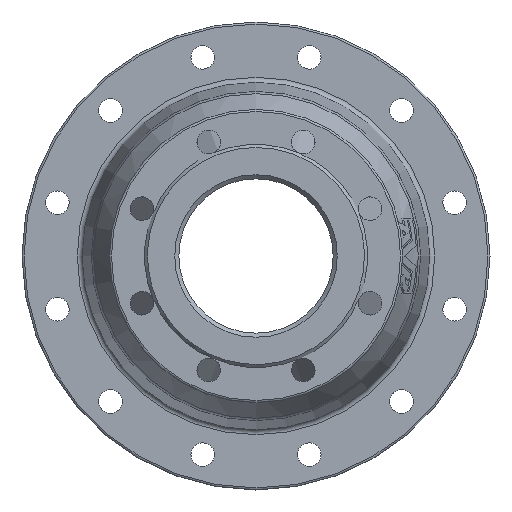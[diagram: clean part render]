
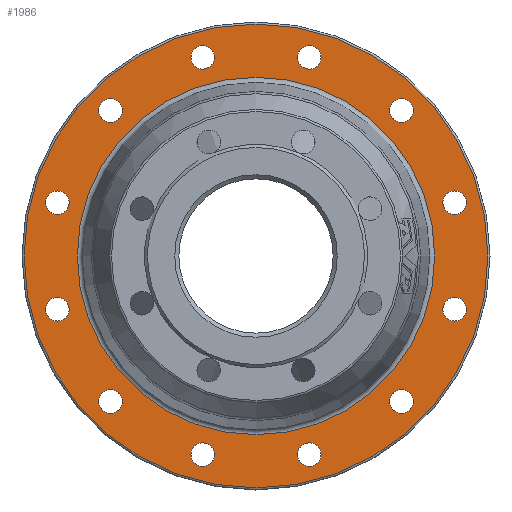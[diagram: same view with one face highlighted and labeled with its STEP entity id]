
A CAD part, left-side view. The second image highlights one B-rep face of the part: STEP entity #1986.
In plain terms, the highlighted planar face has unit normal (-1, 0, 0).
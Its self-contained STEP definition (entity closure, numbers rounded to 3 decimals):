
#34 = CIRCLE ( 'NONE', #509, 11.5 ) ;
#52 = FACE_BOUND ( 'NONE', #2581, .T. ) ;
#67 = FACE_BOUND ( 'NONE', #3065, .T. ) ;
#84 = VERTEX_POINT ( 'NONE', #2435 ) ;
#104 = CARTESIAN_POINT ( 'NONE',  ( 125.5, -51.764, -193.185 ) ) ;
#121 = DIRECTION ( 'NONE',  ( 1., 0., 0. ) ) ;
#199 = EDGE_LOOP ( 'NONE', ( #512 ) ) ;
#266 = CIRCLE ( 'NONE', #954, 11.5 ) ;
#279 = DIRECTION ( 'NONE',  ( 1., 0., 0. ) ) ;
#289 = DIRECTION ( 'NONE',  ( 1., 0., 0. ) ) ;
#299 = FACE_BOUND ( 'NONE', #1471, .T. ) ;
#313 = DIRECTION ( 'NONE',  ( 1., 0., 0. ) ) ;
#331 = CARTESIAN_POINT ( 'NONE',  ( 125.5, 0., 0. ) ) ;
#345 = DIRECTION ( 'NONE',  ( 0., 0., 1. ) ) ;
#348 = VERTEX_POINT ( 'NONE', #2919 ) ;
#387 = EDGE_LOOP ( 'NONE', ( #2099 ) ) ;
#399 = AXIS2_PLACEMENT_3D ( 'NONE', #104, #1523, #2232 ) ;
#411 = AXIS2_PLACEMENT_3D ( 'NONE', #2565, #1637, #2580 ) ;
#457 = VERTEX_POINT ( 'NONE', #1407 ) ;
#464 = EDGE_LOOP ( 'NONE', ( #2642 ) ) ;
#476 = EDGE_CURVE ( 'NONE', #719, #719, #3014, .T. ) ;
#509 = AXIS2_PLACEMENT_3D ( 'NONE', #2888, #121, #1715 ) ;
#512 = ORIENTED_EDGE ( 'NONE', *, *, #1177, .T. ) ;
#516 = DIRECTION ( 'NONE',  ( -1., 0., 0. ) ) ;
#522 = DIRECTION ( 'NONE',  ( 1., 0., 0. ) ) ;
#529 = VERTEX_POINT ( 'NONE', #1008 ) ;
#537 = AXIS2_PLACEMENT_3D ( 'NONE', #985, #522, #2384 ) ;
#540 = CIRCLE ( 'NONE', #938, 225.5 ) ;
#563 = DIRECTION ( 'NONE',  ( 0., 0., 1. ) ) ;
#574 = VERTEX_POINT ( 'NONE', #1985 ) ;
#591 = AXIS2_PLACEMENT_3D ( 'NONE', #1060, #289, #563 ) ;
#634 = DIRECTION ( 'NONE',  ( 0., 0., 1. ) ) ;
#690 = ORIENTED_EDGE ( 'NONE', *, *, #1896, .T. ) ;
#700 = EDGE_CURVE ( 'NONE', #457, #457, #833, .T. ) ;
#712 = EDGE_CURVE ( 'NONE', #1870, #1870, #2075, .T. ) ;
#719 = VERTEX_POINT ( 'NONE', #2856 ) ;
#730 = CARTESIAN_POINT ( 'NONE',  ( 125.5, -193.185, 63.264 ) ) ;
#737 = AXIS2_PLACEMENT_3D ( 'NONE', #2679, #279, #1209 ) ;
#755 = ORIENTED_EDGE ( 'NONE', *, *, #2104, .T. ) ;
#833 = CIRCLE ( 'NONE', #537, 11.5 ) ;
#835 = AXIS2_PLACEMENT_3D ( 'NONE', #1441, #1467, #1688 ) ;
#847 = CARTESIAN_POINT ( 'NONE',  ( 125.5, 141.421, 141.421 ) ) ;
#852 = CARTESIAN_POINT ( 'NONE',  ( 125.5, 51.764, 193.185 ) ) ;
#862 = EDGE_LOOP ( 'NONE', ( #690 ) ) ;
#871 = CARTESIAN_POINT ( 'NONE',  ( 125.5, 0., 0. ) ) ;
#928 = CARTESIAN_POINT ( 'NONE',  ( 125.5, -193.185, -51.764 ) ) ;
#938 = AXIS2_PLACEMENT_3D ( 'NONE', #871, #2798, #3013 ) ;
#954 = AXIS2_PLACEMENT_3D ( 'NONE', #847, #2728, #634 ) ;
#977 = VERTEX_POINT ( 'NONE', #1670 ) ;
#985 = CARTESIAN_POINT ( 'NONE',  ( 125.5, 51.764, -193.185 ) ) ;
#1008 = CARTESIAN_POINT ( 'NONE',  ( 125.5, 0., 173.735 ) ) ;
#1019 = EDGE_CURVE ( 'NONE', #1450, #1450, #1282, .T. ) ;
#1021 = DIRECTION ( 'NONE',  ( 0., 0., 1. ) ) ;
#1060 = CARTESIAN_POINT ( 'NONE',  ( 125.5, 193.185, 51.764 ) ) ;
#1100 = EDGE_CURVE ( 'NONE', #977, #977, #2026, .T. ) ;
#1177 = EDGE_CURVE ( 'NONE', #1927, #1927, #2323, .T. ) ;
#1184 = VERTEX_POINT ( 'NONE', #1260 ) ;
#1209 = DIRECTION ( 'NONE',  ( 0., 0., 1. ) ) ;
#1230 = ORIENTED_EDGE ( 'NONE', *, *, #700, .T. ) ;
#1243 = FACE_OUTER_BOUND ( 'NONE', #2069, .T. ) ;
#1259 = FACE_BOUND ( 'NONE', #1627, .T. ) ;
#1260 = CARTESIAN_POINT ( 'NONE',  ( 125.5, 193.185, 63.264 ) ) ;
#1271 = CARTESIAN_POINT ( 'NONE',  ( 125.5, 0., 0. ) ) ;
#1282 = CIRCLE ( 'NONE', #3019, 11.5 ) ;
#1288 = FACE_BOUND ( 'NONE', #2256, .T. ) ;
#1306 = EDGE_CURVE ( 'NONE', #1422, #1422, #540, .T. ) ;
#1310 = ORIENTED_EDGE ( 'NONE', *, *, #1676, .T. ) ;
#1376 = ORIENTED_EDGE ( 'NONE', *, *, #2250, .T. ) ;
#1407 = CARTESIAN_POINT ( 'NONE',  ( 125.5, 51.764, -181.685 ) ) ;
#1422 = VERTEX_POINT ( 'NONE', #1902 ) ;
#1440 = EDGE_LOOP ( 'NONE', ( #1310 ) ) ;
#1441 = CARTESIAN_POINT ( 'NONE',  ( 125.5, -141.421, -141.421 ) ) ;
#1450 = VERTEX_POINT ( 'NONE', #2158 ) ;
#1465 = CARTESIAN_POINT ( 'NONE',  ( 125.5, -51.764, -181.685 ) ) ;
#1467 = DIRECTION ( 'NONE',  ( 1., 0., 0. ) ) ;
#1471 = EDGE_LOOP ( 'NONE', ( #1376 ) ) ;
#1490 = FACE_BOUND ( 'NONE', #1730, .T. ) ;
#1505 = FACE_BOUND ( 'NONE', #387, .T. ) ;
#1510 = ORIENTED_EDGE ( 'NONE', *, *, #2480, .T. ) ;
#1523 = DIRECTION ( 'NONE',  ( 1., 0., 0. ) ) ;
#1604 = DIRECTION ( 'NONE',  ( 0., 0., 1. ) ) ;
#1626 = CARTESIAN_POINT ( 'NONE',  ( 125.5, -51.764, 193.185 ) ) ;
#1627 = EDGE_LOOP ( 'NONE', ( #1714 ) ) ;
#1633 = EDGE_CURVE ( 'NONE', #1184, #1184, #1931, .T. ) ;
#1637 = DIRECTION ( 'NONE',  ( 1., 0., 0. ) ) ;
#1670 = CARTESIAN_POINT ( 'NONE',  ( 125.5, -141.421, -129.921 ) ) ;
#1676 = EDGE_CURVE ( 'NONE', #2716, #2716, #34, .T. ) ;
#1688 = DIRECTION ( 'NONE',  ( 0., 0., 1. ) ) ;
#1709 = ORIENTED_EDGE ( 'NONE', *, *, #1100, .T. ) ;
#1714 = ORIENTED_EDGE ( 'NONE', *, *, #712, .T. ) ;
#1715 = DIRECTION ( 'NONE',  ( 0., 0., 1. ) ) ;
#1730 = EDGE_LOOP ( 'NONE', ( #1709 ) ) ;
#1777 = AXIS2_PLACEMENT_3D ( 'NONE', #2651, #313, #345 ) ;
#1813 = EDGE_LOOP ( 'NONE', ( #755 ) ) ;
#1862 = DIRECTION ( 'NONE',  ( 0., 0., 1. ) ) ;
#1870 = VERTEX_POINT ( 'NONE', #730 ) ;
#1896 = EDGE_CURVE ( 'NONE', #2946, #2946, #2433, .T. ) ;
#1902 = CARTESIAN_POINT ( 'NONE',  ( 125.5, 0., 225.5 ) ) ;
#1927 = VERTEX_POINT ( 'NONE', #1465 ) ;
#1931 = CIRCLE ( 'NONE', #591, 11.5 ) ;
#1985 = CARTESIAN_POINT ( 'NONE',  ( 125.5, 51.764, 204.685 ) ) ;
#1986 = ADVANCED_FACE ( 'NONE', ( #2917, #1288, #52, #1259, #1490, #2198, #1243, #1505, #2434, #299, #2404, #2639, #2228, #67 ), #2169, .T. ) ;
#2026 = CIRCLE ( 'NONE', #835, 11.5 ) ;
#2069 = EDGE_LOOP ( 'NONE', ( #2795 ) ) ;
#2075 = CIRCLE ( 'NONE', #737, 11.5 ) ;
#2094 = DIRECTION ( 'NONE',  ( 1., 0., 0. ) ) ;
#2099 = ORIENTED_EDGE ( 'NONE', *, *, #2389, .F. ) ;
#2104 = EDGE_CURVE ( 'NONE', #574, #574, #2236, .T. ) ;
#2158 = CARTESIAN_POINT ( 'NONE',  ( 125.5, -51.764, 204.685 ) ) ;
#2169 = PLANE ( 'NONE',  #2487 ) ;
#2198 = FACE_BOUND ( 'NONE', #2278, .T. ) ;
#2203 = ORIENTED_EDGE ( 'NONE', *, *, #476, .T. ) ;
#2209 = DIRECTION ( 'NONE',  ( 0., 0., 1. ) ) ;
#2228 = FACE_BOUND ( 'NONE', #464, .T. ) ;
#2230 = CARTESIAN_POINT ( 'NONE',  ( 125.5, 193.185, -40.264 ) ) ;
#2232 = DIRECTION ( 'NONE',  ( 0., 0., 1. ) ) ;
#2236 = CIRCLE ( 'NONE', #2881, 11.5 ) ;
#2239 = AXIS2_PLACEMENT_3D ( 'NONE', #928, #2094, #2840 ) ;
#2250 = EDGE_CURVE ( 'NONE', #84, #84, #2490, .T. ) ;
#2256 = EDGE_LOOP ( 'NONE', ( #1510 ) ) ;
#2278 = EDGE_LOOP ( 'NONE', ( #1230 ) ) ;
#2323 = CIRCLE ( 'NONE', #399, 11.5 ) ;
#2384 = DIRECTION ( 'NONE',  ( 0., 0., 1. ) ) ;
#2389 = EDGE_CURVE ( 'NONE', #529, #529, #2588, .T. ) ;
#2404 = FACE_BOUND ( 'NONE', #1440, .T. ) ;
#2433 = CIRCLE ( 'NONE', #411, 11.5 ) ;
#2434 = FACE_BOUND ( 'NONE', #199, .T. ) ;
#2435 = CARTESIAN_POINT ( 'NONE',  ( 125.5, -193.185, -40.264 ) ) ;
#2480 = EDGE_CURVE ( 'NONE', #348, #348, #266, .T. ) ;
#2487 = AXIS2_PLACEMENT_3D ( 'NONE', #331, #516, #1021 ) ;
#2490 = CIRCLE ( 'NONE', #2239, 11.5 ) ;
#2558 = DIRECTION ( 'NONE',  ( 1., 0., 0. ) ) ;
#2565 = CARTESIAN_POINT ( 'NONE',  ( 125.5, 193.185, -51.764 ) ) ;
#2580 = DIRECTION ( 'NONE',  ( 0., 0., 1. ) ) ;
#2581 = EDGE_LOOP ( 'NONE', ( #2830 ) ) ;
#2588 = CIRCLE ( 'NONE', #2837, 173.735 ) ;
#2639 = FACE_BOUND ( 'NONE', #1813, .T. ) ;
#2642 = ORIENTED_EDGE ( 'NONE', *, *, #1633, .T. ) ;
#2651 = CARTESIAN_POINT ( 'NONE',  ( 125.5, 141.421, -141.421 ) ) ;
#2654 = CARTESIAN_POINT ( 'NONE',  ( 125.5, -141.421, 152.921 ) ) ;
#2679 = CARTESIAN_POINT ( 'NONE',  ( 125.5, -193.185, 51.764 ) ) ;
#2716 = VERTEX_POINT ( 'NONE', #2654 ) ;
#2728 = DIRECTION ( 'NONE',  ( 1., 0., 0. ) ) ;
#2746 = DIRECTION ( 'NONE',  ( 1., 0., 0. ) ) ;
#2795 = ORIENTED_EDGE ( 'NONE', *, *, #1306, .T. ) ;
#2798 = DIRECTION ( 'NONE',  ( -1., 0., 0. ) ) ;
#2830 = ORIENTED_EDGE ( 'NONE', *, *, #1019, .T. ) ;
#2837 = AXIS2_PLACEMENT_3D ( 'NONE', #1271, #2866, #2209 ) ;
#2840 = DIRECTION ( 'NONE',  ( 0., 0., 1. ) ) ;
#2856 = CARTESIAN_POINT ( 'NONE',  ( 125.5, 141.421, -129.921 ) ) ;
#2866 = DIRECTION ( 'NONE',  ( -1., 0., 0. ) ) ;
#2881 = AXIS2_PLACEMENT_3D ( 'NONE', #852, #2746, #1604 ) ;
#2888 = CARTESIAN_POINT ( 'NONE',  ( 125.5, -141.421, 141.421 ) ) ;
#2917 = FACE_BOUND ( 'NONE', #862, .T. ) ;
#2919 = CARTESIAN_POINT ( 'NONE',  ( 125.5, 141.421, 152.921 ) ) ;
#2946 = VERTEX_POINT ( 'NONE', #2230 ) ;
#3013 = DIRECTION ( 'NONE',  ( 0., 0., 1. ) ) ;
#3014 = CIRCLE ( 'NONE', #1777, 11.5 ) ;
#3019 = AXIS2_PLACEMENT_3D ( 'NONE', #1626, #2558, #1862 ) ;
#3065 = EDGE_LOOP ( 'NONE', ( #2203 ) ) ;
